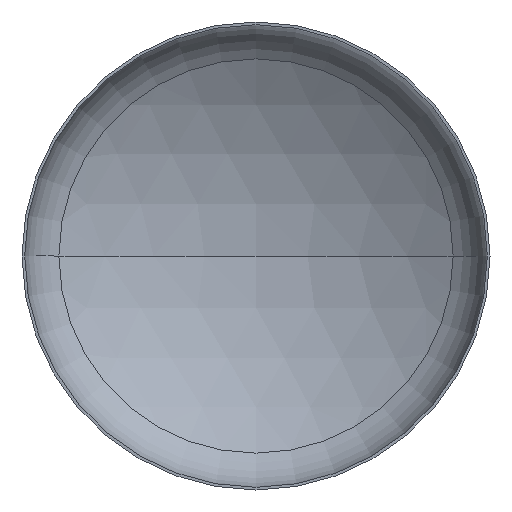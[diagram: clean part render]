
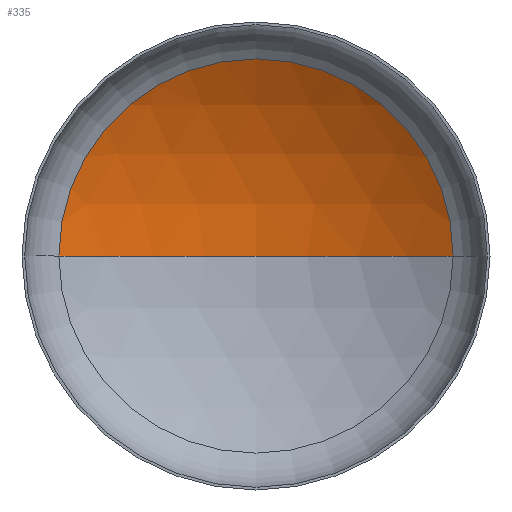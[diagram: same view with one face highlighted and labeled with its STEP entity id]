
A CAD part, front view. The second image highlights one B-rep face of the part: STEP entity #335.
In plain terms, the highlighted spherical face has radius 4800 mm.
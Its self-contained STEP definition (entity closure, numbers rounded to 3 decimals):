
#11 = VERTEX_POINT ( 'NONE', #280 ) ;
#21 = CARTESIAN_POINT ( 'NONE',  ( 0., 1615.455, 0. ) ) ;
#24 = ORIENTED_EDGE ( 'NONE', *, *, #217, .F. ) ;
#51 = VERTEX_POINT ( 'NONE', #325 ) ;
#52 = CARTESIAN_POINT ( 'NONE',  ( 0., -3184.545, 0. ) ) ;
#55 = EDGE_LOOP ( 'NONE', ( #24, #127, #120 ) ) ;
#64 = AXIS2_PLACEMENT_3D ( 'NONE', #189, #123, #221 ) ;
#99 = VERTEX_POINT ( 'NONE', #21 ) ;
#114 = DIRECTION ( 'NONE',  ( 1., 0., 0. ) ) ;
#120 = ORIENTED_EDGE ( 'NONE', *, *, #213, .T. ) ;
#122 = AXIS2_PLACEMENT_3D ( 'NONE', #52, #290, #114 ) ;
#123 = DIRECTION ( 'NONE',  ( 0., 0., -1. ) ) ;
#127 = ORIENTED_EDGE ( 'NONE', *, *, #215, .T. ) ;
#129 = AXIS2_PLACEMENT_3D ( 'NONE', #212, #377, #240 ) ;
#142 = AXIS2_PLACEMENT_3D ( 'NONE', #304, #149, #328 ) ;
#149 = DIRECTION ( 'NONE',  ( 0., -1., 0. ) ) ;
#162 = CIRCLE ( 'NONE', #129, 4800. ) ;
#189 = CARTESIAN_POINT ( 'NONE',  ( 0., -3184.545, 0. ) ) ;
#212 = CARTESIAN_POINT ( 'NONE',  ( 0., -3184.545, 0. ) ) ;
#213 = EDGE_CURVE ( 'NONE', #11, #51, #250, .T. ) ;
#215 = EDGE_CURVE ( 'NONE', #99, #11, #162, .T. ) ;
#217 = EDGE_CURVE ( 'NONE', #99, #51, #353, .T. ) ;
#221 = DIRECTION ( 'NONE',  ( -1., 0., 0. ) ) ;
#240 = DIRECTION ( 'NONE',  ( -1., 0., 0. ) ) ;
#250 = CIRCLE ( 'NONE', #142, 2526.968 ) ;
#275 = FACE_OUTER_BOUND ( 'NONE', #55, .T. ) ;
#280 = CARTESIAN_POINT ( 'NONE',  ( 2526.968, 896.44, 0. ) ) ;
#281 = SPHERICAL_SURFACE ( 'NONE', #64, 4800. ) ;
#290 = DIRECTION ( 'NONE',  ( 0., 0., 1. ) ) ;
#304 = CARTESIAN_POINT ( 'NONE',  ( 0., 896.44, 0. ) ) ;
#325 = CARTESIAN_POINT ( 'NONE',  ( -2526.968, 896.44, 0. ) ) ;
#328 = DIRECTION ( 'NONE',  ( 1., 0., 0. ) ) ;
#335 = ADVANCED_FACE ( 'NONE', ( #275 ), #281, .F. ) ;
#353 = CIRCLE ( 'NONE', #122, 4800. ) ;
#377 = DIRECTION ( 'NONE',  ( 0., 0., -1. ) ) ;
